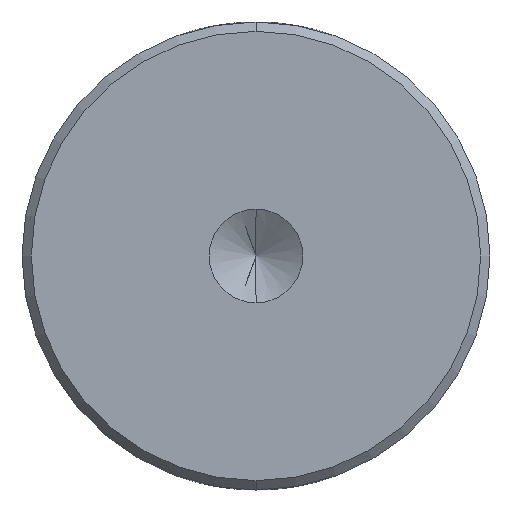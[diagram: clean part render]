
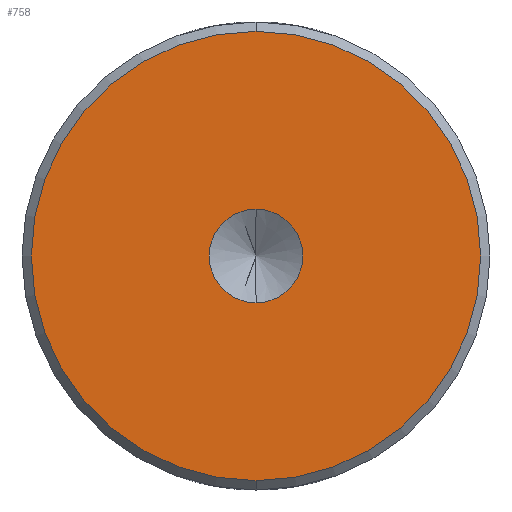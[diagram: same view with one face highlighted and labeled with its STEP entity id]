
A CAD part, front view. The second image highlights one B-rep face of the part: STEP entity #758.
In plain terms, the highlighted planar face has unit normal (0, -1, 0).
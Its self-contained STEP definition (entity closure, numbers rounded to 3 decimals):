
#100 = CARTESIAN_POINT ( 'NONE',  ( 0., -140., -12. ) ) ;
#162 = CARTESIAN_POINT ( 'NONE',  ( 0., -140., 0. ) ) ;
#198 = EDGE_CURVE ( 'NONE', #3070, #743, #402, .T. ) ;
#271 = CARTESIAN_POINT ( 'NONE',  ( 0., -140., 0. ) ) ;
#323 = EDGE_LOOP ( 'NONE', ( #1150, #563 ) ) ;
#360 = AXIS2_PLACEMENT_3D ( 'NONE', #271, #1115, #2238 ) ;
#402 = CIRCLE ( 'NONE', #1925, 2.5 ) ;
#474 = DIRECTION ( 'NONE',  ( 0., 0., 1. ) ) ;
#526 = EDGE_LOOP ( 'NONE', ( #833, #2007 ) ) ;
#563 = ORIENTED_EDGE ( 'NONE', *, *, #2606, .T. ) ;
#663 = CIRCLE ( 'NONE', #2845, 12. ) ;
#743 = VERTEX_POINT ( 'NONE', #3278 ) ;
#758 = ADVANCED_FACE ( 'NONE', ( #3001, #2964 ), #3516, .F. ) ;
#833 = ORIENTED_EDGE ( 'NONE', *, *, #198, .F. ) ;
#936 = DIRECTION ( 'NONE',  ( 0., 0., 1. ) ) ;
#1115 = DIRECTION ( 'NONE',  ( 0., -1., 0. ) ) ;
#1150 = ORIENTED_EDGE ( 'NONE', *, *, #3081, .T. ) ;
#1355 = AXIS2_PLACEMENT_3D ( 'NONE', #162, #3235, #3256 ) ;
#1607 = EDGE_CURVE ( 'NONE', #743, #3070, #1820, .T. ) ;
#1755 = CARTESIAN_POINT ( 'NONE',  ( 0., -140., 12. ) ) ;
#1775 = CARTESIAN_POINT ( 'NONE',  ( 0., -140., 0. ) ) ;
#1813 = AXIS2_PLACEMENT_3D ( 'NONE', #3498, #2942, #474 ) ;
#1820 = CIRCLE ( 'NONE', #1355, 2.5 ) ;
#1834 = CARTESIAN_POINT ( 'NONE',  ( 0., -140., 0. ) ) ;
#1899 = VERTEX_POINT ( 'NONE', #1755 ) ;
#1925 = AXIS2_PLACEMENT_3D ( 'NONE', #1834, #2705, #2971 ) ;
#1943 = CIRCLE ( 'NONE', #360, 12. ) ;
#2007 = ORIENTED_EDGE ( 'NONE', *, *, #1607, .F. ) ;
#2238 = DIRECTION ( 'NONE',  ( 0., 0., 1. ) ) ;
#2606 = EDGE_CURVE ( 'NONE', #3024, #1899, #1943, .T. ) ;
#2705 = DIRECTION ( 'NONE',  ( 0., -1., 0. ) ) ;
#2845 = AXIS2_PLACEMENT_3D ( 'NONE', #1775, #3467, #936 ) ;
#2942 = DIRECTION ( 'NONE',  ( 0., 1., 0. ) ) ;
#2964 = FACE_BOUND ( 'NONE', #526, .T. ) ;
#2971 = DIRECTION ( 'NONE',  ( 0., 0., -1. ) ) ;
#3001 = FACE_OUTER_BOUND ( 'NONE', #323, .T. ) ;
#3024 = VERTEX_POINT ( 'NONE', #100 ) ;
#3070 = VERTEX_POINT ( 'NONE', #3484 ) ;
#3081 = EDGE_CURVE ( 'NONE', #1899, #3024, #663, .T. ) ;
#3235 = DIRECTION ( 'NONE',  ( 0., -1., 0. ) ) ;
#3256 = DIRECTION ( 'NONE',  ( 0., 0., -1. ) ) ;
#3278 = CARTESIAN_POINT ( 'NONE',  ( 0., -140., 2.5 ) ) ;
#3467 = DIRECTION ( 'NONE',  ( 0., -1., 0. ) ) ;
#3484 = CARTESIAN_POINT ( 'NONE',  ( 0., -140., -2.5 ) ) ;
#3498 = CARTESIAN_POINT ( 'NONE',  ( 0., -140., 0. ) ) ;
#3516 = PLANE ( 'NONE',  #1813 ) ;
